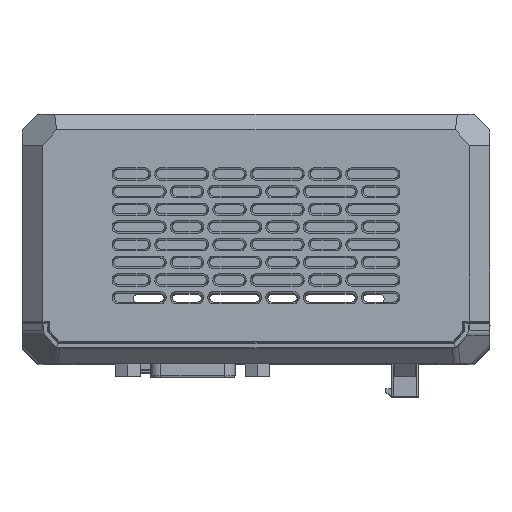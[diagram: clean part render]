
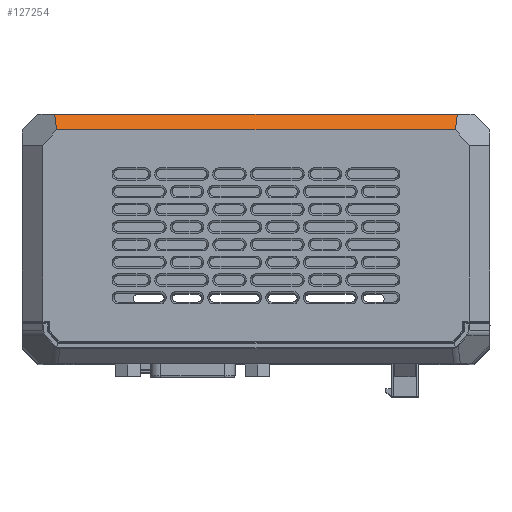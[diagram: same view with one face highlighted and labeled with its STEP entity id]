
A CAD part, top view. The second image highlights one B-rep face of the part: STEP entity #127254.
In plain terms, the highlighted planar face has unit normal (0, 0.707, 0.707).
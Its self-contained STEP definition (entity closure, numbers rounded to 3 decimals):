
#40434=DIRECTION('',(-1.,0.,0.));
#40435=VECTOR('',#40434,77.515);
#40436=CARTESIAN_POINT('',(38.757,26.5,62.));
#40437=LINE('',#40436,#40435);
#43838=DIRECTION('',(0.085,0.705,-0.705));
#43839=VECTOR('',#43838,4.258);
#43840=CARTESIAN_POINT('',(38.393,23.5,65.));
#43841=LINE('',#43840,#43839);
#43854=DIRECTION('',(-0.085,0.705,-0.705));
#43855=VECTOR('',#43854,4.258);
#43856=CARTESIAN_POINT('',(-38.393,23.5,65.));
#43857=LINE('',#43856,#43855);
#43858=DIRECTION('',(-1.,0.,0.));
#43859=VECTOR('',#43858,76.787);
#43860=CARTESIAN_POINT('',(38.393,23.5,65.));
#43861=LINE('',#43860,#43859);
#58262=CARTESIAN_POINT('',(38.757,26.5,62.));
#58263=VERTEX_POINT('',#58262);
#58264=CARTESIAN_POINT('',(-38.757,26.5,62.));
#58265=VERTEX_POINT('',#58264);
#59833=CARTESIAN_POINT('',(-38.393,23.5,65.));
#59834=VERTEX_POINT('',#59833);
#59835=CARTESIAN_POINT('',(38.393,23.5,65.));
#59836=VERTEX_POINT('',#59835);
#127242=CARTESIAN_POINT('',(-38.757,23.5,65.));
#127243=DIRECTION('',(0.,0.707,0.707));
#127244=DIRECTION('',(1.,0.,0.));
#127245=AXIS2_PLACEMENT_3D('',#127242,#127243,#127244);
#127246=PLANE('',#127245);
#127248=ORIENTED_EDGE('',*,*,#127247,.T.);
#127249=ORIENTED_EDGE('',*,*,#124322,.F.);
#127250=ORIENTED_EDGE('',*,*,#127232,.F.);
#127251=ORIENTED_EDGE('',*,*,#126070,.T.);
#127252=EDGE_LOOP('',(#127248,#127249,#127250,#127251));
#127253=FACE_OUTER_BOUND('',#127252,.F.);
#127254=ADVANCED_FACE('',(#127253),#127246,.T.);
#124322=EDGE_CURVE('',#58263,#58265,#40437,.T.);
#126070=EDGE_CURVE('',#59836,#59834,#43861,.T.);
#127232=EDGE_CURVE('',#59836,#58263,#43841,.T.);
#127247=EDGE_CURVE('',#59834,#58265,#43857,.T.);
